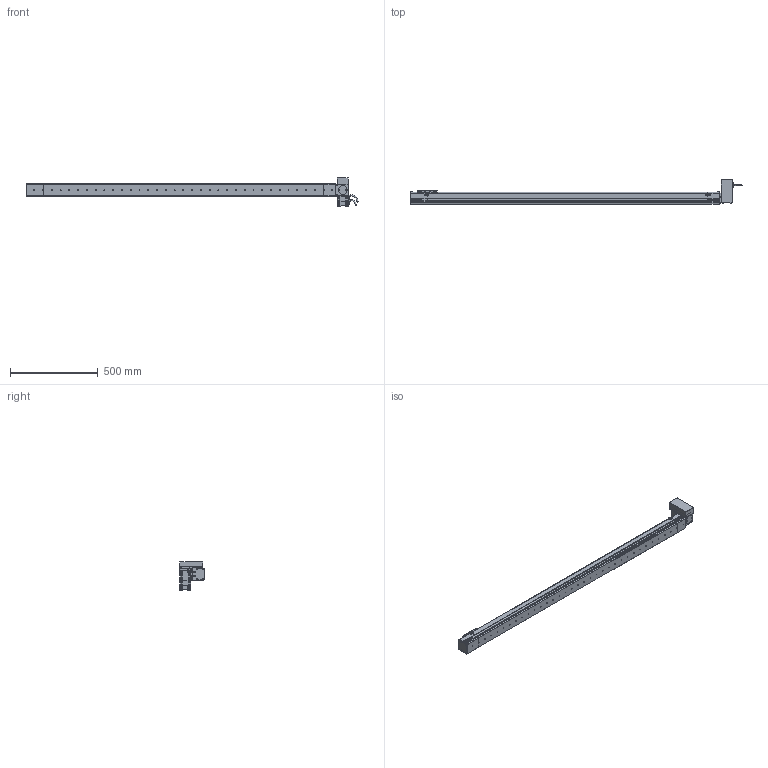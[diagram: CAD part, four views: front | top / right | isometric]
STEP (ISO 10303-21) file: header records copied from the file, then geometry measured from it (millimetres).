
FILE_DESCRIPTION (( 'STEP AP214' ), '1' );
FILE_NAME ('S07 CBN LT S1600.STEP', '2010-06-29T10:55:45', ( 'Conseil Régional Haute-Normandie' ), ( 'Conseil Régional Haute-Normandie' ), 'SwSTEP 2.0', 'SolidWorks 2010', '' );
FILE_SCHEMA (( 'AUTOMOTIVE_DESIGN' ));
Length unit declared in the file: millimetre
Products named in the file (31): Plaque de bout Tail_Default; plaque de serrage Tail_Default; vis M5 L8_Default; support chariot_Default; chariot_Default; Chariot S07_Default; vis M5 L15_Default; Couvercle Tail_Default; S07 CBN LT S1600; Corp Tail_Default; Corp LT_Default; Plaque de bout LT_Default; Head LT_Default; Rondelle de Serrage LT_Default; Cache Support Moteur LT_Default; Couvercle LT_Default; 60BLDC90A-640_Default; Support Moteur LT_Default; plaque de serrage LT_Default; P3 90A_Default; P2 90A_Default; P1_Default; Conecteur 60BLDC_Default; Axe 60BLDC_Default; P4_Default; Corp S07 S1600_Default; VisM3_Default; Conecteur2 60BLDC_Default; Tail S07 Tail_Default; Couvercle S07 S1600_Default
Assembly tree (71 placements, depth 4):
  S07 CBN LT S1600
    Corp S07 S1600_Default
      Couvercle S07 S1600_Default
      Corp S07 S1600_Default
    Chariot S07_Default
      vis M5 L8_Default  x8
      chariot_Default
      support chariot_Default
    Head LT_Default
      vis M5 L15_Default  x16
      Rondelle de Serrage LT_Default  x3
      Plaque de bout LT_Default
      Corp LT_Default
      60BLDC90A-640_Default
        P4_Default
        VisM3_Default  x12
        P1_Default
        Conecteur2 60BLDC_Default
        P2 90A_Default
        Conecteur 60BLDC_Default
        P3 90A_Default
        Axe 60BLDC_Default
      Support Moteur LT_Default
      Couvercle LT_Default
      Cache Support Moteur LT_Default
      plaque de serrage LT_Default
    Tail S07 Tail_Default
      plaque de serrage Tail_Default
      Plaque de bout Tail_Default
      vis M5 L15_Default  x6
      Corp Tail_Default
      Couvercle Tail_Default
Bounding box: 1893.2 x 141 x 162 mm (x, y, z)
Volume: 8894725.3 mm3; surface area: 1014706.8 mm2
Topology: 108 solids, 108 shells, 3946 faces, 9698 edges, 6244 vertices
Faces by surface type: plane 2268, bspline 756, cylinder 711, torus 112, cone 95, sphere 4
Entity records: 154793 total; most frequent: CARTESIAN_POINT 79825, ORIENTED_EDGE 14916, DIRECTION 11251, EDGE_CURVE 7458, VERTEX_POINT 4929, LINE 4809, VECTOR 4809, AXIS2_PLACEMENT_3D 3221
